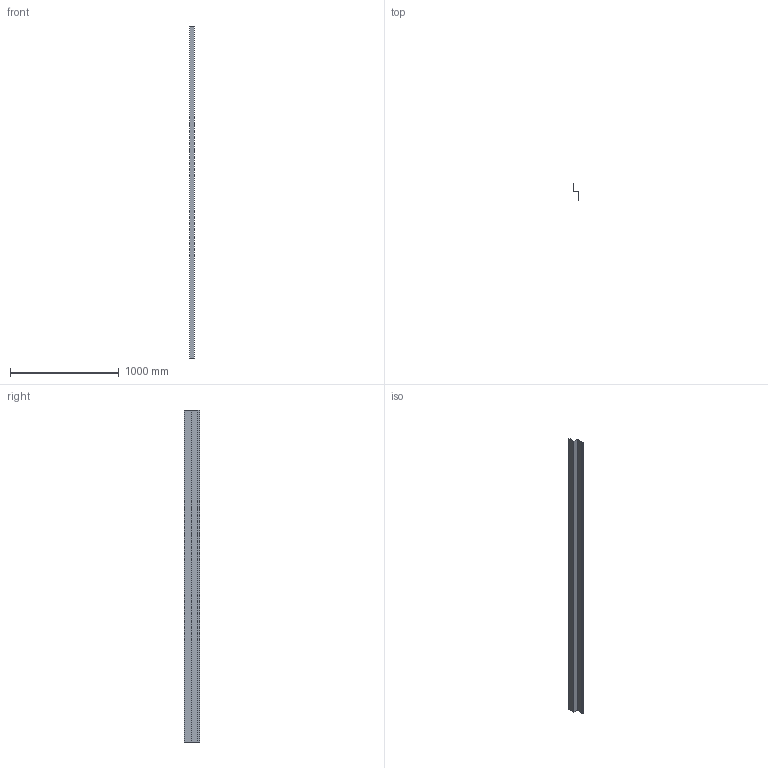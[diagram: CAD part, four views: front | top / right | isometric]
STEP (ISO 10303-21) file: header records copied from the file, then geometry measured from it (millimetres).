
FILE_DESCRIPTION(/* description */ (''),/* implementation_level */ '2;1');
FILE_NAME(/* name */ 'M13J (1-2).stp',/* time_stamp */ '2025-05-14T09:54:36-04:00',/* author */ ('gabrielle.gilbert'),/* organization */ (''),/* preprocessor_version */ 'ST-DEVELOPER v20',/* originating_system */ 'Autodesk Inventor 2025',/* authorisation */ '');
FILE_SCHEMA (('AUTOMOTIVE_DESIGN { 1 0 10303 214 3 1 1 }'));
Length unit declared in the file: inch
Products named in the file (1): M13I (1-2)
Bounding box: 45.64 x 142.34 x 3048 mm (x, y, z)
Volume: 285739.2 mm3; surface area: 1259894.6 mm2
Topology: 1 solids, 1 shells, 18 faces, 48 edges, 32 vertices
Faces by surface type: plane 12, cylinder 6
Entity records: 609 total; most frequent: CARTESIAN_POINT 99, DIRECTION 98, ORIENTED_EDGE 96, EDGE_CURVE 48, LINE 36, VECTOR 36, VERTEX_POINT 32, AXIS2_PLACEMENT_3D 31
